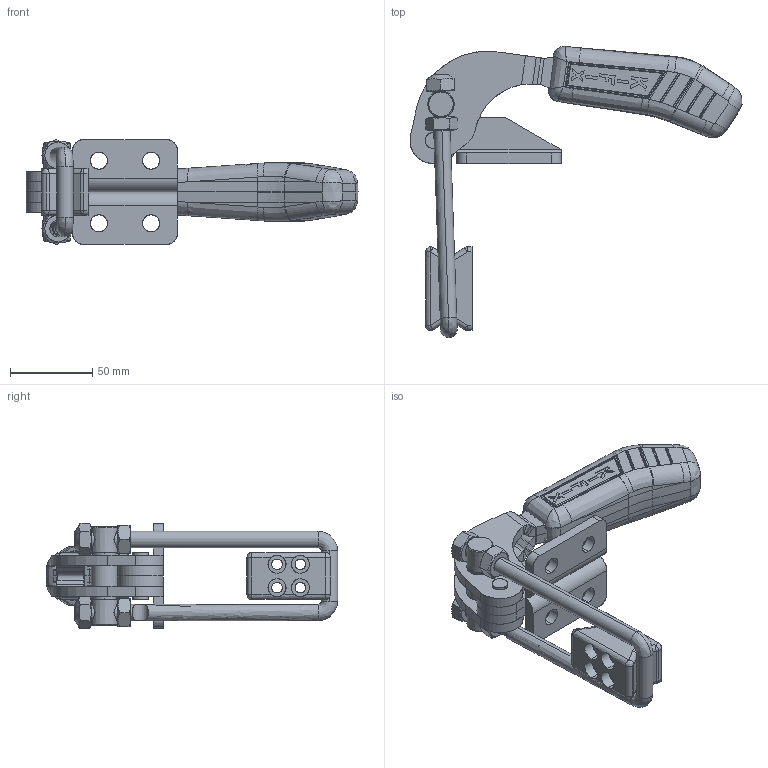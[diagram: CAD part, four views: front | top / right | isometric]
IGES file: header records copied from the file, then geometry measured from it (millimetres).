
Start section: SolidWorks IGES file using analytic representation for surfaces
Global section: file name: C:\Projetos\Grampos\KF-473\KF-473 D\KF-473 D.IGS; native system: SolidWorks 2013; preprocessor: SolidWorks 2013; author: Ricardo; date: 140822.143224; units: millimetre
Bounding box: 202.05 x 177.22 x 64.13 mm (x, y, z)
Surface area: 91476.6 mm2 (no closed solid volume)
Topology: 0 solids, 0 shells, 707 faces, 8154 edges, 8127 vertices
Faces by surface type: bspline 398, revolution 309
